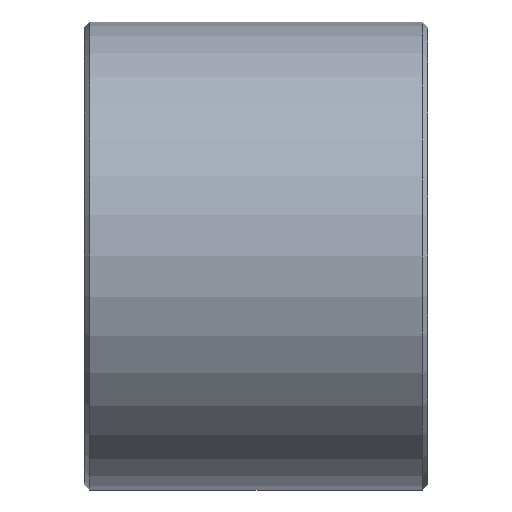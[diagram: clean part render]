
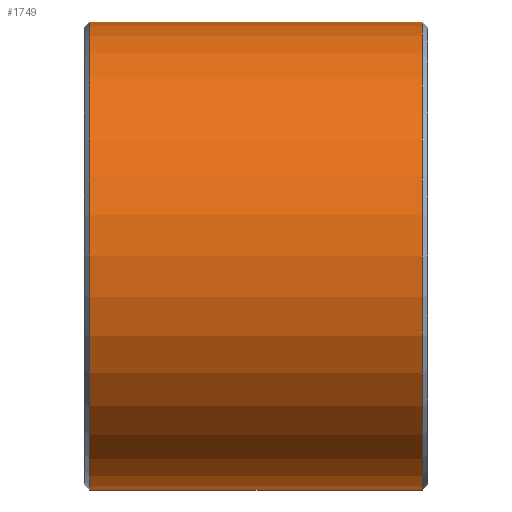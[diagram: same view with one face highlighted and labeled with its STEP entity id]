
A CAD part, front view. The second image highlights one B-rep face of the part: STEP entity #1749.
In plain terms, the highlighted cylindrical face has radius 22.5 mm (diameter 45 mm), a partial arc.
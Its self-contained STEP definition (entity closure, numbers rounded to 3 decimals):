
#81=DIRECTION('',(1.,0.,0.));
#82=VECTOR('',#81,32.);
#83=CARTESIAN_POINT('',(-16.,0.,
-22.5));
#84=LINE('',#83,#82);
#130=CARTESIAN_POINT('',(16.,0.,0.));
#131=DIRECTION('',(1.,0.,0.));
#132=DIRECTION('',(0.,0.,1.));
#133=AXIS2_PLACEMENT_3D('',#130,#131,#132);
#135=CARTESIAN_POINT('',(-16.,0.,0.));
#136=DIRECTION('',(-1.,0.,0.));
#137=DIRECTION('',(0.,0.,-1.));
#138=AXIS2_PLACEMENT_3D('',#135,#136,#137);
#140=DIRECTION('',(1.,0.,0.));
#141=VECTOR('',#140,32.);
#142=CARTESIAN_POINT('',(-16.,0.,
22.5));
#143=LINE('',#142,#141);
#1618=CARTESIAN_POINT('',(16.,0.,22.5));
#1619=CARTESIAN_POINT('',(16.,0.,-22.5));
#1620=VERTEX_POINT('',#1618);
#1621=VERTEX_POINT('',#1619);
#1626=CARTESIAN_POINT('',(-16.,0.,-22.5));
#1627=CARTESIAN_POINT('',(-16.,0.,22.5));
#1628=VERTEX_POINT('',#1626);
#1629=VERTEX_POINT('',#1627);
#1738=CARTESIAN_POINT('',(-16.5,0.,0.));
#1739=DIRECTION('',(1.,0.,0.));
#1740=DIRECTION('',(0.,0.,-1.));
#1741=AXIS2_PLACEMENT_3D('',#1738,#1739,#1740);
#1742=CYLINDRICAL_SURFACE('',#1741,22.5);
#1743=ORIENTED_EDGE('',*,*,#1732,.T.);
#1744=ORIENTED_EDGE('',*,*,#1686,.F.);
#1745=ORIENTED_EDGE('',*,*,#1656,.T.);
#1746=ORIENTED_EDGE('',*,*,#1683,.T.);
#1747=EDGE_LOOP('',(#1743,#1744,#1745,#1746));
#1748=FACE_OUTER_BOUND('',#1747,.F.);
#1749=ADVANCED_FACE('',(#1748),#1742,.T.);
#134=CIRCLE('',#133,22.5);
#139=CIRCLE('',#138,22.5);
#1656=EDGE_CURVE('',#1628,#1629,#139,.T.);
#1683=EDGE_CURVE('',#1629,#1620,#143,.T.);
#1686=EDGE_CURVE('',#1628,#1621,#84,.T.);
#1732=EDGE_CURVE('',#1620,#1621,#134,.T.);
